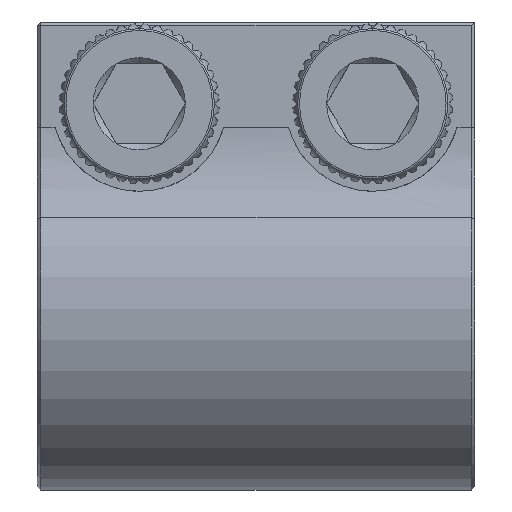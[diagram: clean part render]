
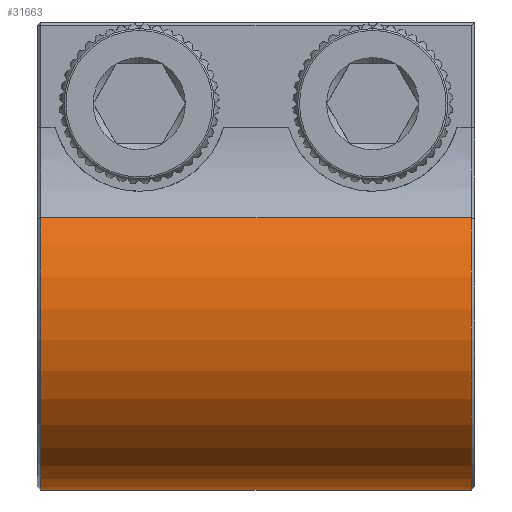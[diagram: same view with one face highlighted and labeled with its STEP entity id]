
A CAD part, left-side view. The second image highlights one B-rep face of the part: STEP entity #31663.
In plain terms, the highlighted cylindrical face has radius 6.35 mm (diameter 12.7 mm), a partial arc.
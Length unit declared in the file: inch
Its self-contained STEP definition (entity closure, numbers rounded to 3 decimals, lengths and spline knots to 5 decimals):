
#1287 = CIRCLE ( 'NONE', #14075, 0.25 ) ;
#1452 = CARTESIAN_POINT ( 'NONE',  ( 0., -0.295, 0. ) ) ;
#2614 = CARTESIAN_POINT ( 'NONE',  ( 0., -0.295, -0.25 ) ) ;
#3874 = CARTESIAN_POINT ( 'NONE',  ( 0., 0.3, -0.25 ) ) ;
#5935 = CYLINDRICAL_SURFACE ( 'NONE', #39386, 0.25 ) ;
#7420 = EDGE_CURVE ( 'NONE', #32421, #28283, #14522, .T. ) ;
#7677 = EDGE_CURVE ( 'NONE', #20008, #32421, #42125, .T. ) ;
#11212 = ORIENTED_EDGE ( 'NONE', *, *, #7677, .T. ) ;
#12059 = DIRECTION ( 'NONE',  ( 0., 0., 1. ) ) ;
#12723 = VERTEX_POINT ( 'NONE', #18850 ) ;
#12848 = DIRECTION ( 'NONE',  ( 0., 0., 1. ) ) ;
#13247 = EDGE_CURVE ( 'NONE', #12723, #20008, #1287, .T. ) ;
#14075 = AXIS2_PLACEMENT_3D ( 'NONE', #40164, #19845, #12848 ) ;
#14522 = CIRCLE ( 'NONE', #29819, 0.25 ) ;
#15381 = ORIENTED_EDGE ( 'NONE', *, *, #7420, .T. ) ;
#16244 = FACE_OUTER_BOUND ( 'NONE', #28055, .T. ) ;
#18850 = CARTESIAN_POINT ( 'NONE',  ( -0.2175, 0.295, 0.12326 ) ) ;
#19845 = DIRECTION ( 'NONE',  ( 0., -1., 0. ) ) ;
#20008 = VERTEX_POINT ( 'NONE', #22688 ) ;
#21052 = VECTOR ( 'NONE', #44323, 39.37008 ) ;
#22480 = ORIENTED_EDGE ( 'NONE', *, *, #32013, .T. ) ;
#22688 = CARTESIAN_POINT ( 'NONE',  ( 0., 0.295, -0.25 ) ) ;
#24700 = DIRECTION ( 'NONE',  ( 0., 0., -1. ) ) ;
#28055 = EDGE_LOOP ( 'NONE', ( #43740, #11212, #15381, #22480 ) ) ;
#28283 = VERTEX_POINT ( 'NONE', #44172 ) ;
#29819 = AXIS2_PLACEMENT_3D ( 'NONE', #1452, #36037, #12059 ) ;
#31663 = ADVANCED_FACE ( 'NONE', ( #16244 ), #5935, .T. ) ;
#32013 = EDGE_CURVE ( 'NONE', #28283, #12723, #40577, .T. ) ;
#32421 = VERTEX_POINT ( 'NONE', #2614 ) ;
#34994 = DIRECTION ( 'NONE',  ( 0., -1., 0. ) ) ;
#35131 = VECTOR ( 'NONE', #41610, 39.37008 ) ;
#35146 = CARTESIAN_POINT ( 'NONE',  ( 0., 0.3, 0. ) ) ;
#36037 = DIRECTION ( 'NONE',  ( 0., 1., 0. ) ) ;
#37850 = CARTESIAN_POINT ( 'NONE',  ( -0.2175, 0.3, 0.12326 ) ) ;
#39386 = AXIS2_PLACEMENT_3D ( 'NONE', #35146, #34994, #24700 ) ;
#40164 = CARTESIAN_POINT ( 'NONE',  ( 0., 0.295, 0. ) ) ;
#40577 = LINE ( 'NONE', #37850, #21052 ) ;
#41610 = DIRECTION ( 'NONE',  ( 0., -1., 0. ) ) ;
#42125 = LINE ( 'NONE', #3874, #35131 ) ;
#43740 = ORIENTED_EDGE ( 'NONE', *, *, #13247, .T. ) ;
#44172 = CARTESIAN_POINT ( 'NONE',  ( -0.2175, -0.295, 0.12326 ) ) ;
#44323 = DIRECTION ( 'NONE',  ( 0., 1., 0. ) ) ;
